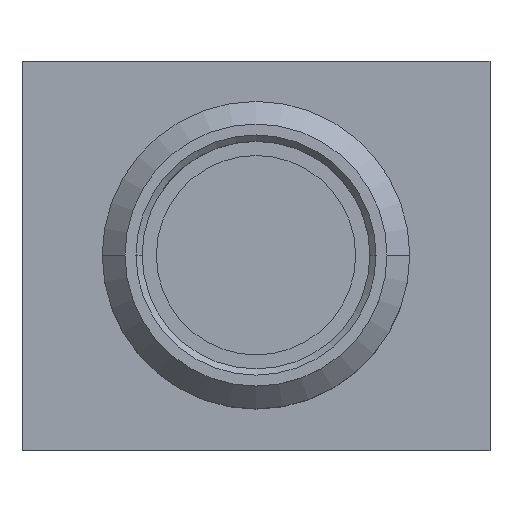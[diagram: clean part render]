
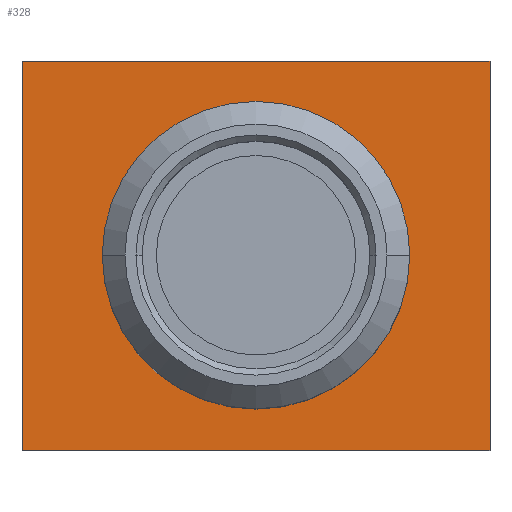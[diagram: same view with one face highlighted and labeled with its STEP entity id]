
A CAD part, top view. The second image highlights one B-rep face of the part: STEP entity #328.
In plain terms, the highlighted planar face has unit normal (0, 0, 1).
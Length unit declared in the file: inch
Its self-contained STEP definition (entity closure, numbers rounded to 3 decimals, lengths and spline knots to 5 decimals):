
#23 = DIRECTION ( 'NONE',  ( -1., 0., 0. ) ) ;
#36 = EDGE_LOOP ( 'NONE', ( #682, #91 ) ) ;
#60 = VERTEX_POINT ( 'NONE', #413 ) ;
#91 = ORIENTED_EDGE ( 'NONE', *, *, #710, .T. ) ;
#110 = EDGE_CURVE ( 'NONE', #60, #495, #804, .T. ) ;
#131 = AXIS2_PLACEMENT_3D ( 'NONE', #296, #673, #639 ) ;
#144 = VECTOR ( 'NONE', #1412, 39.37008 ) ;
#161 = VECTOR ( 'NONE', #1216, 39.37008 ) ;
#187 = DIRECTION ( 'NONE',  ( -1., 0., 0. ) ) ;
#203 = PLANE ( 'NONE',  #131 ) ;
#296 = CARTESIAN_POINT ( 'NONE',  ( 0.1875, -0.156, -0.31 ) ) ;
#301 = CARTESIAN_POINT ( 'NONE',  ( -0.1875, 0.156, -0.31 ) ) ;
#309 = EDGE_CURVE ( 'NONE', #756, #1199, #854, .T. ) ;
#313 = CARTESIAN_POINT ( 'NONE',  ( 0., 0., -0.31 ) ) ;
#322 = DIRECTION ( 'NONE',  ( 0., 0., -1. ) ) ;
#328 = ADVANCED_FACE ( 'NONE', ( #512, #1388 ), #203, .F. ) ;
#392 = ORIENTED_EDGE ( 'NONE', *, *, #631, .F. ) ;
#413 = CARTESIAN_POINT ( 'NONE',  ( -0.1875, -0.156, -0.31 ) ) ;
#419 = CARTESIAN_POINT ( 'NONE',  ( -0.1875, 0.156, -0.31 ) ) ;
#436 = CARTESIAN_POINT ( 'NONE',  ( 0.105, 0., -0.31 ) ) ;
#462 = CARTESIAN_POINT ( 'NONE',  ( 0.1875, 0.156, -0.31 ) ) ;
#472 = LINE ( 'NONE', #659, #161 ) ;
#495 = VERTEX_POINT ( 'NONE', #419 ) ;
#496 = VECTOR ( 'NONE', #1334, 39.37008 ) ;
#512 = FACE_BOUND ( 'NONE', #36, .T. ) ;
#547 = VECTOR ( 'NONE', #1235, 39.37008 ) ;
#549 = DIRECTION ( 'NONE',  ( 0., 0., -1. ) ) ;
#631 = EDGE_CURVE ( 'NONE', #495, #1210, #762, .T. ) ;
#639 = DIRECTION ( 'NONE',  ( -1., 0., 0. ) ) ;
#652 = CIRCLE ( 'NONE', #691, 0.105 ) ;
#659 = CARTESIAN_POINT ( 'NONE',  ( 0.1875, -0.156, -0.31 ) ) ;
#673 = DIRECTION ( 'NONE',  ( 0., 0., -1. ) ) ;
#682 = ORIENTED_EDGE ( 'NONE', *, *, #309, .T. ) ;
#691 = AXIS2_PLACEMENT_3D ( 'NONE', #313, #549, #187 ) ;
#710 = EDGE_CURVE ( 'NONE', #1199, #756, #652, .T. ) ;
#722 = CARTESIAN_POINT ( 'NONE',  ( 0.1875, 0.156, -0.31 ) ) ;
#756 = VERTEX_POINT ( 'NONE', #436 ) ;
#762 = LINE ( 'NONE', #1327, #144 ) ;
#804 = LINE ( 'NONE', #301, #496 ) ;
#854 = CIRCLE ( 'NONE', #1308, 0.105 ) ;
#939 = ORIENTED_EDGE ( 'NONE', *, *, #110, .F. ) ;
#1030 = VERTEX_POINT ( 'NONE', #1115 ) ;
#1098 = EDGE_CURVE ( 'NONE', #1030, #60, #472, .T. ) ;
#1114 = ORIENTED_EDGE ( 'NONE', *, *, #1098, .F. ) ;
#1115 = CARTESIAN_POINT ( 'NONE',  ( 0.1875, -0.156, -0.31 ) ) ;
#1159 = LINE ( 'NONE', #722, #547 ) ;
#1199 = VERTEX_POINT ( 'NONE', #1359 ) ;
#1210 = VERTEX_POINT ( 'NONE', #462 ) ;
#1216 = DIRECTION ( 'NONE',  ( -1., 0., 0. ) ) ;
#1231 = CARTESIAN_POINT ( 'NONE',  ( 0., 0., -0.31 ) ) ;
#1235 = DIRECTION ( 'NONE',  ( 0., -1., 0. ) ) ;
#1286 = EDGE_LOOP ( 'NONE', ( #1324, #392, #939, #1114 ) ) ;
#1308 = AXIS2_PLACEMENT_3D ( 'NONE', #1231, #322, #23 ) ;
#1324 = ORIENTED_EDGE ( 'NONE', *, *, #1387, .F. ) ;
#1327 = CARTESIAN_POINT ( 'NONE',  ( 0.1875, 0.156, -0.31 ) ) ;
#1334 = DIRECTION ( 'NONE',  ( 0., 1., 0. ) ) ;
#1359 = CARTESIAN_POINT ( 'NONE',  ( -0.105, 0., -0.31 ) ) ;
#1387 = EDGE_CURVE ( 'NONE', #1210, #1030, #1159, .T. ) ;
#1388 = FACE_OUTER_BOUND ( 'NONE', #1286, .T. ) ;
#1412 = DIRECTION ( 'NONE',  ( 1., 0., 0. ) ) ;
